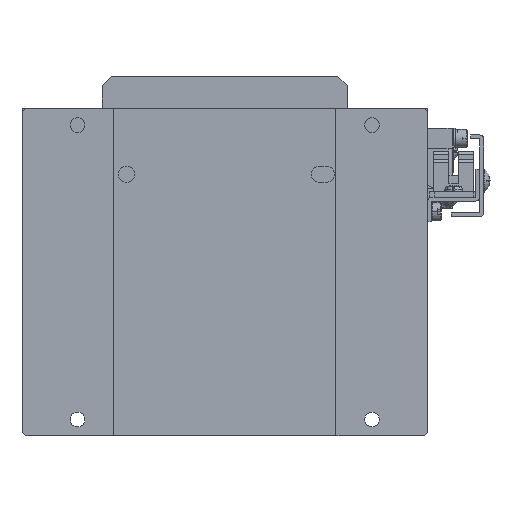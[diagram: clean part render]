
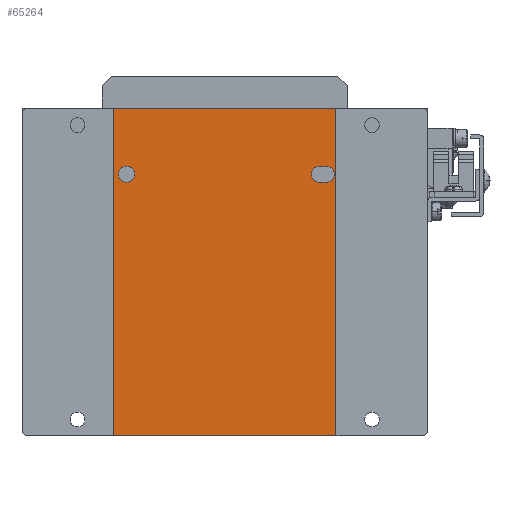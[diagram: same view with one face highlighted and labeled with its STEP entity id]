
A CAD part, front view. The second image highlights one B-rep face of the part: STEP entity #65264.
In plain terms, the highlighted planar face has unit normal (0, -1, 0) as drawn and (1, 0, 0) by its records, which use the part's own axes.
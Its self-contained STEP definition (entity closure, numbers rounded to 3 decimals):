
#112 = LINE ( 'NONE', #18384, #23106 ) ;
#160 = EDGE_CURVE ( 'NONE', #32010, #24277, #27556, .T. ) ;
#836 = AXIS2_PLACEMENT_3D ( 'NONE', #19859, #19376, #8538 ) ;
#1345 = VERTEX_POINT ( 'NONE', #17884 ) ;
#1563 = CARTESIAN_POINT ( 'NONE',  ( 279.473, -145.894, 279.63 ) ) ;
#1981 = ORIENTED_EDGE ( 'NONE', *, *, #54665, .T. ) ;
#3510 = DIRECTION ( 'NONE',  ( 0., 0., -1. ) ) ;
#4303 = DIRECTION ( 'NONE',  ( -1., 0., 0. ) ) ;
#4957 = AXIS2_PLACEMENT_3D ( 'NONE', #47039, #19091, #3510 ) ;
#5001 = FACE_BOUND ( 'NONE', #60834, .T. ) ;
#5134 = LINE ( 'NONE', #64155, #41367 ) ;
#5910 = FACE_OUTER_BOUND ( 'NONE', #67847, .T. ) ;
#6445 = CARTESIAN_POINT ( 'NONE',  ( 279.473, -147.894, 279.63 ) ) ;
#8538 = DIRECTION ( 'NONE',  ( 0., 0., -1. ) ) ;
#9798 = ORIENTED_EDGE ( 'NONE', *, *, #71537, .T. ) ;
#10194 = CARTESIAN_POINT ( 'NONE',  ( 279.473, -145.894, 284.63 ) ) ;
#12242 = DIRECTION ( 'NONE',  ( 0., 0., 1. ) ) ;
#13069 = VERTEX_POINT ( 'NONE', #31268 ) ;
#14857 = AXIS2_PLACEMENT_3D ( 'NONE', #22092, #27748, #17156 ) ;
#15219 = CARTESIAN_POINT ( 'NONE',  ( 279.473, -206.894, 282.13 ) ) ;
#17156 = DIRECTION ( 'NONE',  ( 0., 0., -1. ) ) ;
#17884 = CARTESIAN_POINT ( 'NONE',  ( 279.473, -206.894, 284.63 ) ) ;
#18016 = LINE ( 'NONE', #21176, #59632 ) ;
#18275 = DIRECTION ( 'NONE',  ( 0., 0., -1. ) ) ;
#18384 = CARTESIAN_POINT ( 'NONE',  ( 279.473, -176.894, 202.13 ) ) ;
#18859 = CIRCLE ( 'NONE', #63183, 2.5 ) ;
#19091 = DIRECTION ( 'NONE',  ( -1., 0., 0. ) ) ;
#19376 = DIRECTION ( 'NONE',  ( -1., 0., 0. ) ) ;
#19859 = CARTESIAN_POINT ( 'NONE',  ( 279.473, -147.894, 282.13 ) ) ;
#21176 = CARTESIAN_POINT ( 'NONE',  ( 279.473, -176.894, 302.13 ) ) ;
#21592 = CARTESIAN_POINT ( 'NONE',  ( 279.473, -147.894, 284.63 ) ) ;
#22092 = CARTESIAN_POINT ( 'NONE',  ( 279.473, -145.894, 282.13 ) ) ;
#22308 = EDGE_LOOP ( 'NONE', ( #9798, #27674 ) ) ;
#23106 = VECTOR ( 'NONE', #69580, 1000. ) ;
#23366 = ORIENTED_EDGE ( 'NONE', *, *, #45419, .T. ) ;
#23711 = DIRECTION ( 'NONE',  ( 0., 1., 0. ) ) ;
#24277 = VERTEX_POINT ( 'NONE', #26575 ) ;
#25808 = DIRECTION ( 'NONE',  ( 0., 0., -1. ) ) ;
#26575 = CARTESIAN_POINT ( 'NONE',  ( 279.473, -142.894, 302.13 ) ) ;
#27556 = LINE ( 'NONE', #35161, #34649 ) ;
#27674 = ORIENTED_EDGE ( 'NONE', *, *, #71717, .T. ) ;
#27748 = DIRECTION ( 'NONE',  ( -1., 0., 0. ) ) ;
#29122 = CARTESIAN_POINT ( 'NONE',  ( 279.473, -210.894, 252.13 ) ) ;
#30233 = CIRCLE ( 'NONE', #65133, 2.5 ) ;
#31268 = CARTESIAN_POINT ( 'NONE',  ( 279.473, -206.894, 279.63 ) ) ;
#31788 = DIRECTION ( 'NONE',  ( 0., -1., 0. ) ) ;
#32010 = VERTEX_POINT ( 'NONE', #40659 ) ;
#32810 = ORIENTED_EDGE ( 'NONE', *, *, #41526, .T. ) ;
#33200 = CIRCLE ( 'NONE', #14857, 2.5 ) ;
#34394 = VERTEX_POINT ( 'NONE', #1563 ) ;
#34649 = VECTOR ( 'NONE', #12242, 1000. ) ;
#35052 = DIRECTION ( 'NONE',  ( -1., 0., 0. ) ) ;
#35161 = CARTESIAN_POINT ( 'NONE',  ( 279.473, -142.894, 252.13 ) ) ;
#35339 = ORIENTED_EDGE ( 'NONE', *, *, #44648, .T. ) ;
#35886 = PLANE ( 'NONE',  #4957 ) ;
#39517 = FACE_BOUND ( 'NONE', #22308, .T. ) ;
#39586 = VECTOR ( 'NONE', #68526, 1000. ) ;
#40659 = CARTESIAN_POINT ( 'NONE',  ( 279.473, -142.894, 202.13 ) ) ;
#40932 = VERTEX_POINT ( 'NONE', #53829 ) ;
#41367 = VECTOR ( 'NONE', #42079, 1000. ) ;
#41526 = EDGE_CURVE ( 'NONE', #34394, #42019, #5134, .T. ) ;
#41947 = EDGE_CURVE ( 'NONE', #42657, #55097, #55513, .T. ) ;
#42019 = VERTEX_POINT ( 'NONE', #6445 ) ;
#42079 = DIRECTION ( 'NONE',  ( 0., -1., 0. ) ) ;
#42657 = VERTEX_POINT ( 'NONE', #21592 ) ;
#44648 = EDGE_CURVE ( 'NONE', #24277, #50040, #18016, .T. ) ;
#45419 = EDGE_CURVE ( 'NONE', #40932, #32010, #112, .T. ) ;
#47039 = CARTESIAN_POINT ( 'NONE',  ( 279.473, -176.894, 252.13 ) ) ;
#48252 = CARTESIAN_POINT ( 'NONE',  ( 279.473, -210.894, 302.13 ) ) ;
#50040 = VERTEX_POINT ( 'NONE', #48252 ) ;
#51242 = ORIENTED_EDGE ( 'NONE', *, *, #160, .T. ) ;
#53661 = EDGE_CURVE ( 'NONE', #50040, #40932, #66187, .T. ) ;
#53829 = CARTESIAN_POINT ( 'NONE',  ( 279.473, -210.894, 202.13 ) ) ;
#54665 = EDGE_CURVE ( 'NONE', #55097, #34394, #33200, .T. ) ;
#55097 = VERTEX_POINT ( 'NONE', #10194 ) ;
#55513 = LINE ( 'NONE', #57133, #68793 ) ;
#57133 = CARTESIAN_POINT ( 'NONE',  ( 279.473, -146.894, 284.63 ) ) ;
#59632 = VECTOR ( 'NONE', #31788, 1000. ) ;
#60834 = EDGE_LOOP ( 'NONE', ( #32810, #67937, #64448, #1981 ) ) ;
#63183 = AXIS2_PLACEMENT_3D ( 'NONE', #15219, #4303, #25808 ) ;
#63330 = CARTESIAN_POINT ( 'NONE',  ( 279.473, -206.894, 282.13 ) ) ;
#64155 = CARTESIAN_POINT ( 'NONE',  ( 279.473, -146.894, 279.63 ) ) ;
#64448 = ORIENTED_EDGE ( 'NONE', *, *, #41947, .T. ) ;
#64924 = CIRCLE ( 'NONE', #836, 2.5 ) ;
#65133 = AXIS2_PLACEMENT_3D ( 'NONE', #63330, #35052, #18275 ) ;
#65264 = ADVANCED_FACE ( 'NONE', ( #5001, #39517, #5910 ), #35886, .F. ) ;
#66187 = LINE ( 'NONE', #29122, #39586 ) ;
#67743 = EDGE_CURVE ( 'NONE', #42019, #42657, #64924, .T. ) ;
#67847 = EDGE_LOOP ( 'NONE', ( #35339, #71786, #23366, #51242 ) ) ;
#67937 = ORIENTED_EDGE ( 'NONE', *, *, #67743, .T. ) ;
#68526 = DIRECTION ( 'NONE',  ( 0., 0., -1. ) ) ;
#68793 = VECTOR ( 'NONE', #23711, 1000. ) ;
#69580 = DIRECTION ( 'NONE',  ( 0., 1., 0. ) ) ;
#71537 = EDGE_CURVE ( 'NONE', #1345, #13069, #18859, .T. ) ;
#71717 = EDGE_CURVE ( 'NONE', #13069, #1345, #30233, .T. ) ;
#71786 = ORIENTED_EDGE ( 'NONE', *, *, #53661, .T. ) ;
